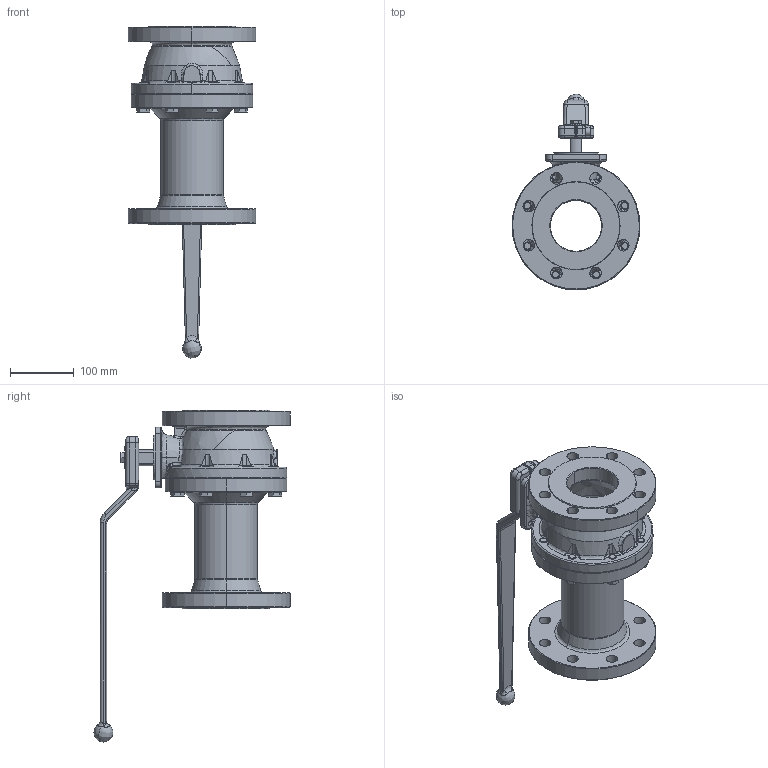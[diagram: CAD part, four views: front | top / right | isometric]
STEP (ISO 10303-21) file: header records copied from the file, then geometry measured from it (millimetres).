
FILE_DESCRIPTION (( 'STEP AP214' ), '1' );
FILE_NAME ('0340080.STEP', '2015-06-15T07:59:10', ( 'pere' ), ( '' ), 'SwSTEP 2.0', 'SolidWorks 2013', '' );
FILE_SCHEMA (( 'AUTOMOTIVE_DESIGN' ));
Length unit declared in the file: millimetre
Products named in the file (9): ISO 4017 - M12 x 40-C; ISO 4017 - M10 x 20-N_ISO 4017 - M10 x 20-N; 5180_17; M080CHST; EPI80Q; 0340080L; 0540080C; 0340080; DIN 912 M8 x 25 --- 25C_DIN 912 M8 x 25 --- 25C
Assembly tree (15 placements, depth 2):
  0340080
    0540080C
    0340080L
    EPI80Q
    M080CHST
    5180_17
    ISO 4017 - M10 x 20-N_ISO 4017 - M10 x 20-N
    ISO 4017 - M12 x 40-C  x8
    DIN 912 M8 x 25 --- 25C_DIN 912 M8 x 25 --- 25C
Bounding box: 200 x 306.8 x 519.35 mm (x, y, z)
Volume: 3038958.8 mm3; surface area: 512223 mm2
Topology: 15 solids, 15 shells, 822 faces, 1999 edges, 1210 vertices
Faces by surface type: cylinder 267, plane 239, cone 152, bspline 142, torus 22
Entity records: 40714 total; most frequent: CARTESIAN_POINT 26513, ORIENTED_EDGE 3094, DIRECTION 2522, EDGE_CURVE 1547, AXIS2_PLACEMENT_3D 1017, VERTEX_POINT 972, EDGE_LOOP 729, FACE_OUTER_BOUND 619
